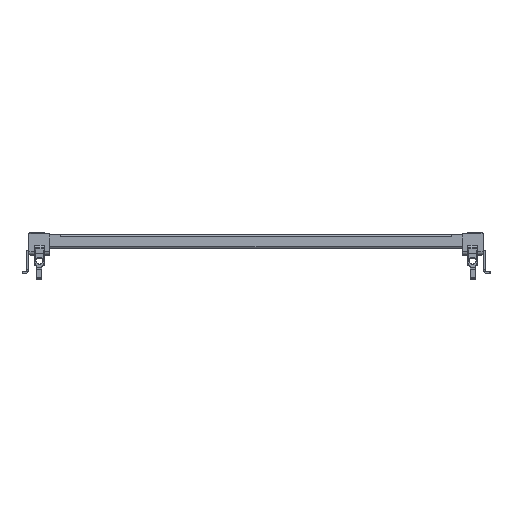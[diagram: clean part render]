
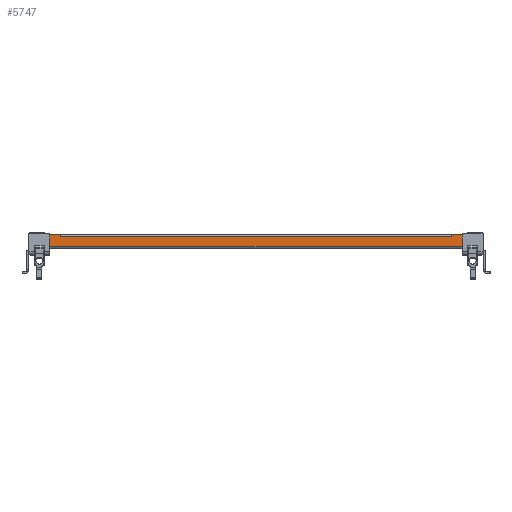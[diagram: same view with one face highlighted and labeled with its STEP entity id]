
A CAD part, front view. The second image highlights one B-rep face of the part: STEP entity #5747.
In plain terms, the highlighted planar face has unit normal (0, -1, 0).
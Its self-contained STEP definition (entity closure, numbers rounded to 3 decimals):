
#150 = DIRECTION ( 'NONE',  ( 1., 0., 0. ) ) ;
#355 = CARTESIAN_POINT ( 'NONE',  ( 383., -1040., 26. ) ) ;
#1149 = CARTESIAN_POINT ( 'NONE',  ( 403.5, -1040., 28. ) ) ;
#1200 = ORIENTED_EDGE ( 'NONE', *, *, #10518, .F. ) ;
#1517 = ORIENTED_EDGE ( 'NONE', *, *, #4448, .F. ) ;
#1709 = CARTESIAN_POINT ( 'NONE',  ( -403.5, -1040., 28. ) ) ;
#1779 = LINE ( 'NONE', #7732, #10162 ) ;
#1825 = EDGE_CURVE ( 'NONE', #6212, #9902, #9297, .T. ) ;
#2008 = DIRECTION ( 'NONE',  ( 0., 1., 0. ) ) ;
#2142 = VERTEX_POINT ( 'NONE', #6643 ) ;
#2159 = VECTOR ( 'NONE', #6565, 1000. ) ;
#2440 = EDGE_CURVE ( 'NONE', #2142, #6798, #1779, .T. ) ;
#2450 = ORIENTED_EDGE ( 'NONE', *, *, #8434, .T. ) ;
#2607 = CARTESIAN_POINT ( 'NONE',  ( 408., -1040., 26. ) ) ;
#2953 = LINE ( 'NONE', #3770, #9600 ) ;
#3108 = ORIENTED_EDGE ( 'NONE', *, *, #1825, .T. ) ;
#3506 = DIRECTION ( 'NONE',  ( 1., 0., 0. ) ) ;
#3647 = ORIENTED_EDGE ( 'NONE', *, *, #6625, .F. ) ;
#3770 = CARTESIAN_POINT ( 'NONE',  ( 408.45, -1040., 3.5 ) ) ;
#4307 = CARTESIAN_POINT ( 'NONE',  ( -383., -1040., 23.5 ) ) ;
#4448 = EDGE_CURVE ( 'NONE', #10113, #6726, #8889, .T. ) ;
#4457 = ORIENTED_EDGE ( 'NONE', *, *, #6629, .F. ) ;
#4545 = VERTEX_POINT ( 'NONE', #7467 ) ;
#4656 = VECTOR ( 'NONE', #3506, 1000. ) ;
#5116 = DIRECTION ( 'NONE',  ( 0., 0., 1. ) ) ;
#5273 = DIRECTION ( 'NONE',  ( 0., 0., 1. ) ) ;
#5386 = CARTESIAN_POINT ( 'NONE',  ( 383., -1040., 23.5 ) ) ;
#5456 = ORIENTED_EDGE ( 'NONE', *, *, #2440, .F. ) ;
#5747 = ADVANCED_FACE ( 'NONE', ( #10714 ), #7135, .F. ) ;
#5759 = CARTESIAN_POINT ( 'NONE',  ( -383., -1040., 23.5 ) ) ;
#5822 = VERTEX_POINT ( 'NONE', #355 ) ;
#5908 = LINE ( 'NONE', #7462, #7783 ) ;
#5944 = AXIS2_PLACEMENT_3D ( 'NONE', #8728, #2008, #7939 ) ;
#5965 = ORIENTED_EDGE ( 'NONE', *, *, #8698, .F. ) ;
#6152 = CARTESIAN_POINT ( 'NONE',  ( 403.5, -1040., 3.5 ) ) ;
#6212 = VERTEX_POINT ( 'NONE', #6152 ) ;
#6326 = CARTESIAN_POINT ( 'NONE',  ( -383., -1040., 26. ) ) ;
#6565 = DIRECTION ( 'NONE',  ( 1., 0., 0. ) ) ;
#6625 = EDGE_CURVE ( 'NONE', #5822, #9902, #9248, .T. ) ;
#6629 = EDGE_CURVE ( 'NONE', #4545, #2142, #10863, .T. ) ;
#6643 = CARTESIAN_POINT ( 'NONE',  ( -403.5, -1040., 26. ) ) ;
#6726 = VERTEX_POINT ( 'NONE', #5386 ) ;
#6795 = EDGE_LOOP ( 'NONE', ( #5965, #3108, #3647, #1200, #1517, #2450, #5456, #4457 ) ) ;
#6798 = VERTEX_POINT ( 'NONE', #6326 ) ;
#7135 = PLANE ( 'NONE',  #5944 ) ;
#7166 = VECTOR ( 'NONE', #7949, 1000. ) ;
#7462 = CARTESIAN_POINT ( 'NONE',  ( 383., -1040., 26. ) ) ;
#7467 = CARTESIAN_POINT ( 'NONE',  ( -403.5, -1040., 3.5 ) ) ;
#7732 = CARTESIAN_POINT ( 'NONE',  ( 408., -1040., 26. ) ) ;
#7783 = VECTOR ( 'NONE', #10679, 1000. ) ;
#7830 = LINE ( 'NONE', #9152, #8331 ) ;
#7939 = DIRECTION ( 'NONE',  ( 0., 0., 1. ) ) ;
#7949 = DIRECTION ( 'NONE',  ( 0., 0., 1. ) ) ;
#8138 = CARTESIAN_POINT ( 'NONE',  ( 403.5, -1040., 26. ) ) ;
#8331 = VECTOR ( 'NONE', #5116, 1000. ) ;
#8434 = EDGE_CURVE ( 'NONE', #10113, #6798, #7830, .T. ) ;
#8698 = EDGE_CURVE ( 'NONE', #6212, #4545, #2953, .T. ) ;
#8728 = CARTESIAN_POINT ( 'NONE',  ( -442.5, -1040., 3. ) ) ;
#8754 = VECTOR ( 'NONE', #5273, 1000. ) ;
#8889 = LINE ( 'NONE', #5759, #2159 ) ;
#9152 = CARTESIAN_POINT ( 'NONE',  ( -383., -1040., 26. ) ) ;
#9248 = LINE ( 'NONE', #2607, #4656 ) ;
#9297 = LINE ( 'NONE', #1149, #7166 ) ;
#9535 = DIRECTION ( 'NONE',  ( -1., 0., 0. ) ) ;
#9600 = VECTOR ( 'NONE', #9535, 1000. ) ;
#9902 = VERTEX_POINT ( 'NONE', #8138 ) ;
#10113 = VERTEX_POINT ( 'NONE', #4307 ) ;
#10162 = VECTOR ( 'NONE', #150, 1000. ) ;
#10518 = EDGE_CURVE ( 'NONE', #6726, #5822, #5908, .T. ) ;
#10679 = DIRECTION ( 'NONE',  ( 0., 0., 1. ) ) ;
#10714 = FACE_OUTER_BOUND ( 'NONE', #6795, .T. ) ;
#10863 = LINE ( 'NONE', #1709, #8754 ) ;
